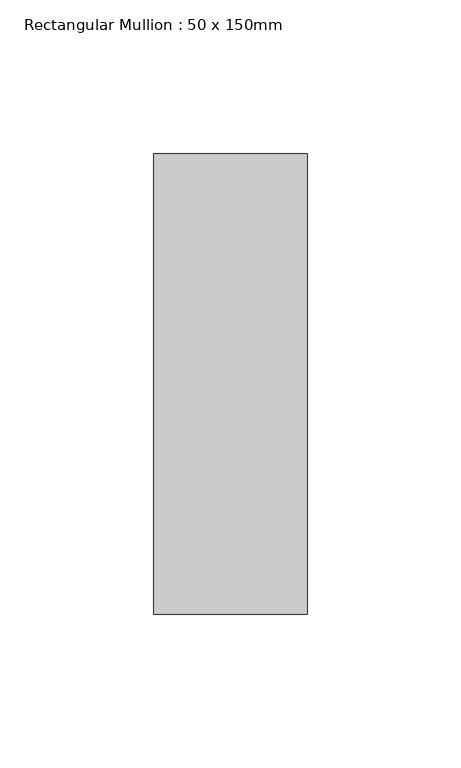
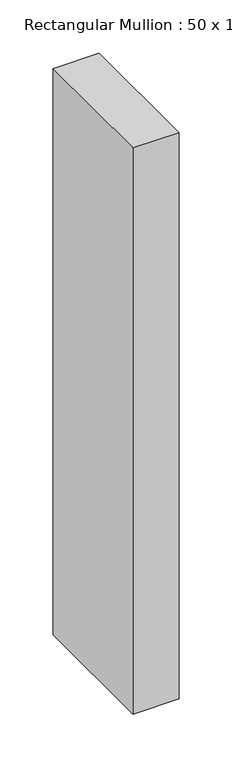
"""IFC4 building model written with IfcOpenShell, lengths in millimetres: member geometry, Rectangular Mullion : 50 x 150mm."""

from ifc_helpers import new_model, si_unit, frame, origin, place, context, project, spatial, polyline, outline, extrude, source, transform, mapped, element, save


def rectangular_mullion_50_x_150mm_5618a3b2(model_context):
    return source(origin(), model_context, "Body", "SweptSolid", [
        extrude(outline(polyline([(0.0, 75.0), (0.0, -75.0), (-50.0, -75.0), (-50.0, 75.0), (0.0, 75.0)])), frame((0.0, 0.0, -650.0000002), z_axis=(0.0, 0.0, 1.0), x_axis=(1.0, 0.0, 0.0)), (0.0, 0.0, 1.0), 650.0000002),
    ])


if __name__ == "__main__":
    model = new_model("IFC4")
    model_context = context("Model", 3, world=origin())
    ifc_project = project(units=[si_unit("LENGTHUNIT", "METRE", prefix="MILLI")], contexts=[model_context])
    site = spatial("IfcSite", under=ifc_project)
    building = spatial("IfcBuilding", under=site)
    placement = place(None, origin())
    rectangular_mullion_50_x_150mm_shape = rectangular_mullion_50_x_150mm_5618a3b2(model_context)
    element("IfcMember", 1, ObjectType="Rectangular Mullion : 50 x 150mm", at=placement, inside=building, context=model_context, shape_type="MappedRepresentation", body=[
        mapped(rectangular_mullion_50_x_150mm_shape, transform((0.0, 0.0, 0.0), x_axis=(1.0, 0.0, 0.0), y_axis=(0.0, 1.0, 0.0), z_axis=(0.0, 0.0, 1.0))),
    ])
    save(model, "model.ifc")
